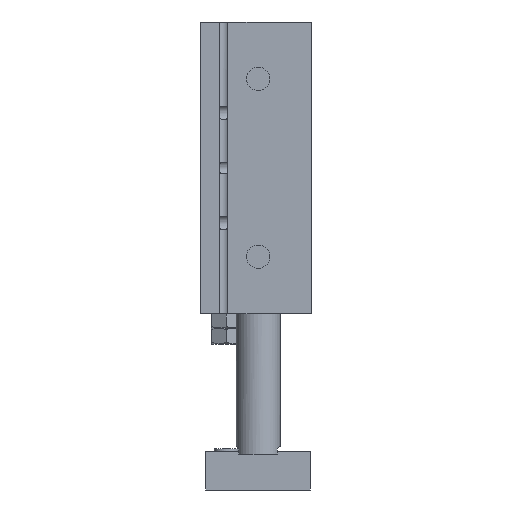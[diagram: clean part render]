
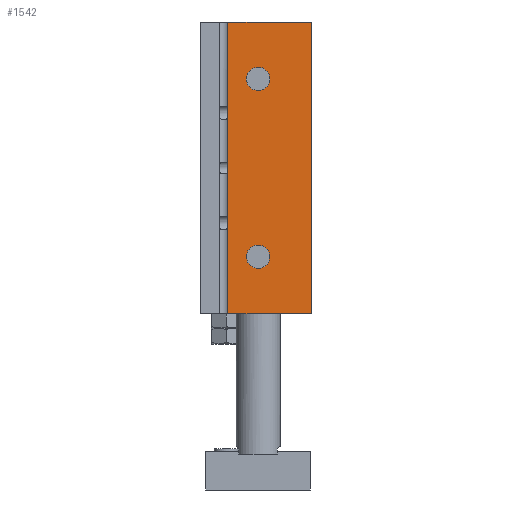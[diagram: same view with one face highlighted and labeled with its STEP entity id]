
A CAD part, front view. The second image highlights one B-rep face of the part: STEP entity #1542.
In plain terms, the highlighted planar face has unit normal (0, -1, 0).
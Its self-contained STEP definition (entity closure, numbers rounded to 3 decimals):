
#1380=CARTESIAN_POINT('',(-11.,-48.,170.0));
#1381=VERTEX_POINT('',#1380);
#1389=CARTESIAN_POINT('',(-11.,-48.,64.));
#1390=VERTEX_POINT('',#1389);
#1397=CARTESIAN_POINT('',(-11.,-48.,170.0));
#1398=DIRECTION('',(0.0,0.0,-1.0));
#1399=VECTOR('',#1398,106.);
#1400=LINE('',#1397,#1399);
#1401=EDGE_CURVE('',#1381,#1390,#1400,.T.);
#1490=CARTESIAN_POINT('',(19.5,-48.,64.));
#1491=DIRECTION('',(0.0,-1.0,0.0));
#1492=DIRECTION('',(0.0,0.0,-1.0));
#1493=AXIS2_PLACEMENT_3D('',#1490,#1491,#1492);
#1494=PLANE('',#1493);
#1495=ORIENTED_EDGE('',*,*,#1401,.T.);
#1496=CARTESIAN_POINT('',(19.5,-48.,64.));
#1497=VERTEX_POINT('',#1496);
#1498=CARTESIAN_POINT('',(19.5,-48.,64.));
#1499=DIRECTION('',(-1.0,0.0,0.0));
#1500=VECTOR('',#1499,30.5);
#1501=LINE('',#1498,#1500);
#1502=EDGE_CURVE('',#1497,#1390,#1501,.T.);
#1503=ORIENTED_EDGE('',*,*,#1502,.F.);
#1504=CARTESIAN_POINT('',(19.5,-48.,170.0));
#1505=VERTEX_POINT('',#1504);
#1506=CARTESIAN_POINT('',(19.5,-48.,64.));
#1507=DIRECTION('',(0.0,0.0,1.0));
#1508=VECTOR('',#1507,106.0);
#1509=LINE('',#1506,#1508);
#1510=EDGE_CURVE('',#1497,#1505,#1509,.T.);
#1511=ORIENTED_EDGE('',*,*,#1510,.T.);
#1512=CARTESIAN_POINT('',(19.5,-48.,170.0));
#1513=DIRECTION('',(-1.0,0.0,0.0));
#1514=VECTOR('',#1513,30.5);
#1515=LINE('',#1512,#1514);
#1516=EDGE_CURVE('',#1505,#1381,#1515,.T.);
#1517=ORIENTED_EDGE('',*,*,#1516,.T.);
#1518=EDGE_LOOP('',(#1495,#1503,#1511,#1517));
#1519=FACE_OUTER_BOUND('',#1518,.T.);
#1520=CARTESIAN_POINT('',(4.25,-48.,149.3));
#1521=VERTEX_POINT('',#1520);
#1522=CARTESIAN_POINT('',(0.0,-48.,149.3));
#1523=DIRECTION('',(0.0,1.0,0.0));
#1524=DIRECTION('',(-1.0,0.0,0.0));
#1525=AXIS2_PLACEMENT_3D('',#1522,#1523,#1524);
#1526=CIRCLE('',#1525,4.25);
#1527=EDGE_CURVE('',#1521,#1521,#1526,.T.);
#1528=ORIENTED_EDGE('',*,*,#1527,.T.);
#1529=EDGE_LOOP('',(#1528));
#1530=FACE_BOUND('',#1529,.T.);
#1531=CARTESIAN_POINT('',(4.25,-48.,84.7));
#1532=VERTEX_POINT('',#1531);
#1533=CARTESIAN_POINT('',(0.0,-48.,84.7));
#1534=DIRECTION('',(0.0,1.0,0.0));
#1535=DIRECTION('',(-1.0,0.0,0.0));
#1536=AXIS2_PLACEMENT_3D('',#1533,#1534,#1535);
#1537=CIRCLE('',#1536,4.25);
#1538=EDGE_CURVE('',#1532,#1532,#1537,.T.);
#1539=ORIENTED_EDGE('',*,*,#1538,.T.);
#1540=EDGE_LOOP('',(#1539));
#1541=FACE_BOUND('',#1540,.T.);
#1542=ADVANCED_FACE('',(#1519,#1530,#1541),#1494,.T.);
